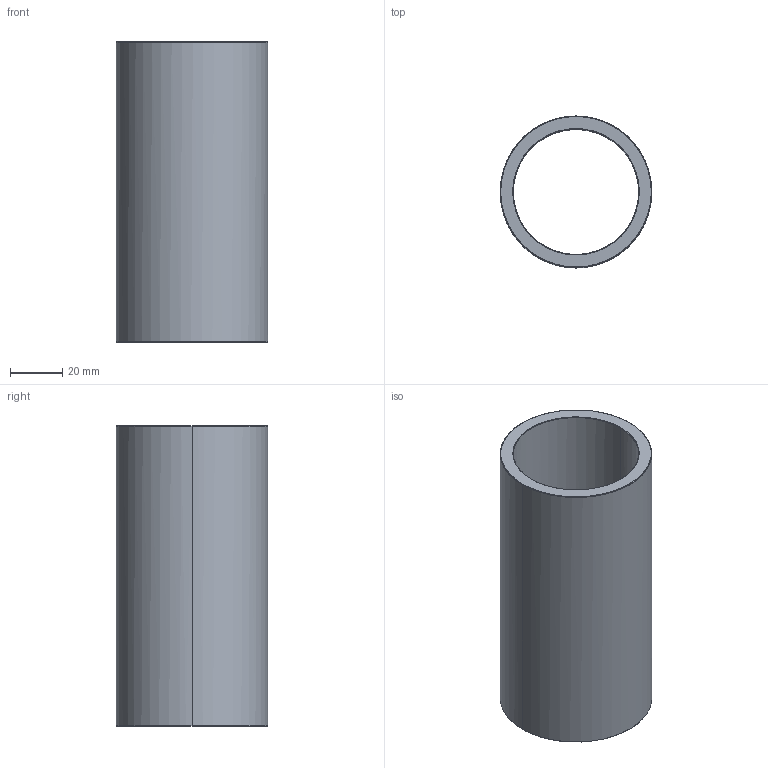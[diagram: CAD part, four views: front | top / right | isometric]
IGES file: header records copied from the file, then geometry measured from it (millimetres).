
Start section: Write IGES format                                    datakit 2008 (c)
Global section: file name: Unknown; native system: DATAKIT Converter; preprocessor: Unknown; author: Unknown; organization: Unknown; date: 950613.180003; units: millimetre
Bounding box: 58 x 58 x 115 mm (x, y, z)
Surface area: 39883 mm2 (no closed solid volume)
Topology: 0 solids, 0 shells, 14 faces, 56 edges, 56 vertices
Faces by surface type: revolution 12, bspline 2
